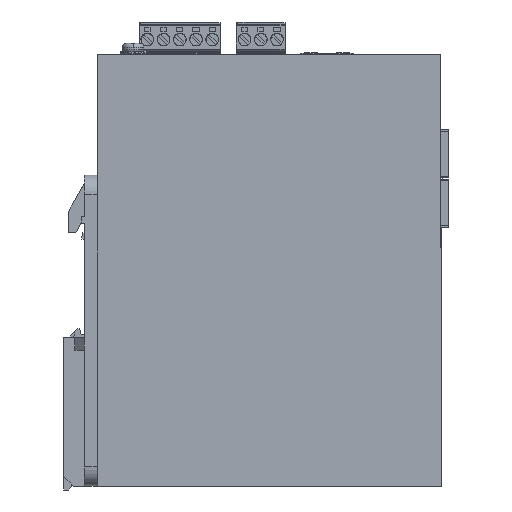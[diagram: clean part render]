
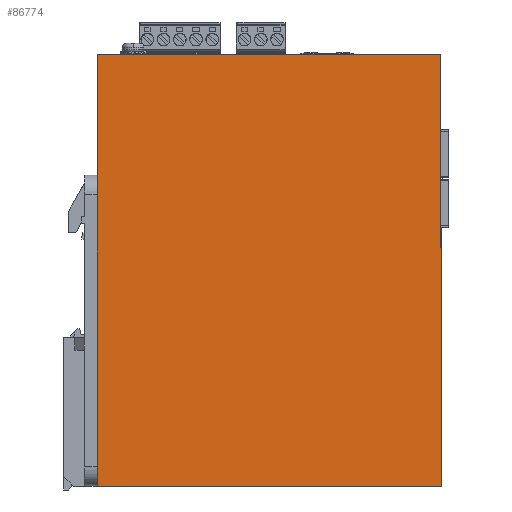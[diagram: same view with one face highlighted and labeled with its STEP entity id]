
A CAD part, left-side view. The second image highlights one B-rep face of the part: STEP entity #86774.
In plain terms, the highlighted planar face has unit normal (-1, 0, 0).
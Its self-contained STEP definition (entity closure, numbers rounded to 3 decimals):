
#86735=CARTESIAN_POINT('',(0.183,694.37,134.464));
#86736=DIRECTION('',(1.,0.,0.));
#86737=DIRECTION('',(0.,-1.,0.));
#86738=AXIS2_PLACEMENT_3D('',#86735,#86736,#86737);
#86739=PLANE('',#86738);
#86740=CARTESIAN_POINT('',(0.028,107.595,-0.098));
#86741=VERTEX_POINT('',#86740);
#86742=CARTESIAN_POINT('',(0.028,107.595,134.998));
#86743=VERTEX_POINT('',#86742);
#86744=CARTESIAN_POINT('',(0.028,107.595,-0.098));
#86745=DIRECTION('',(0.,0.,1.));
#86746=VECTOR('',#86745,135.096);
#86747=LINE('',#86744,#86746);
#86748=EDGE_CURVE('',#86741,#86743,#86747,.T.);
#86749=ORIENTED_EDGE('',*,*,#86748,.F.);
#86750=CARTESIAN_POINT('',(0.,0.,0.));
#86751=VERTEX_POINT('',#86750);
#86752=CARTESIAN_POINT('',(0.028,107.595,-0.098));
#86753=DIRECTION('',(0.,-1.,0.001));
#86754=VECTOR('',#86753,107.595);
#86755=LINE('',#86752,#86754);
#86756=EDGE_CURVE('',#86741,#86751,#86755,.T.);
#86757=ORIENTED_EDGE('',*,*,#86756,.T.);
#86758=CARTESIAN_POINT('',(0.,0.123,135.095));
#86759=VERTEX_POINT('',#86758);
#86760=CARTESIAN_POINT('',(-0.,-0.,-0.));
#86761=DIRECTION('',(0.,0.001,1.));
#86762=VECTOR('',#86761,135.095);
#86763=LINE('',#86760,#86762);
#86764=EDGE_CURVE('',#86751,#86759,#86763,.T.);
#86765=ORIENTED_EDGE('',*,*,#86764,.T.);
#86766=CARTESIAN_POINT('',(0.028,107.595,134.998));
#86767=DIRECTION('',(0.,-1.,0.001));
#86768=VECTOR('',#86767,107.472);
#86769=LINE('',#86766,#86768);
#86770=EDGE_CURVE('',#86743,#86759,#86769,.T.);
#86771=ORIENTED_EDGE('',*,*,#86770,.F.);
#86772=EDGE_LOOP('',(#86749,#86757,#86765,#86771));
#86773=FACE_BOUND('',#86772,.T.);
#86774=ADVANCED_FACE('',(#86773),#86739,.F.);
